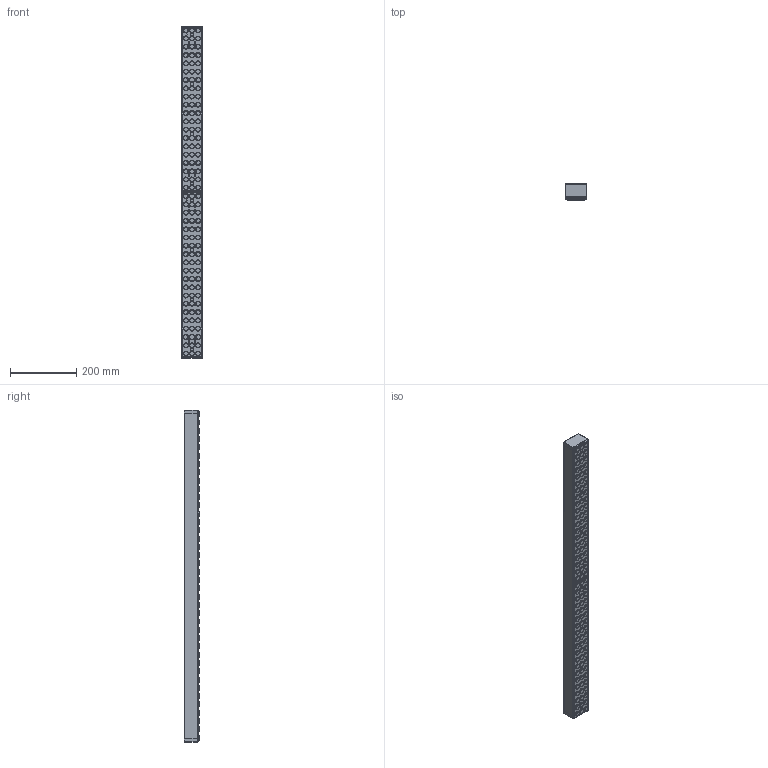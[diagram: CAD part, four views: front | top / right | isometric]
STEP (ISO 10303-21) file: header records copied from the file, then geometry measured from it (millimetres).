
FILE_DESCRIPTION(/* description */ (''),/* implementation_level */ '2;1');
FILE_NAME(/* name */ 'BINGO_LUMI_SYSTEM_GDO_BL1.stp',/* time_stamp */ '2025-10-01T13:41:19+02:00',/* author */ ('gian.noche'),/* organization */ (''),/* preprocessor_version */ 'ST-DEVELOPER v19.2',/* originating_system */ 'Autodesk Inventor 2023',/* authorisation */ '');
FILE_SCHEMA (('AUTOMOTIVE_DESIGN { 1 0 10303 214 3 1 1 }'));
Length unit declared in the file: millimetre
Products named in the file (1): IDP_27_BINGO_LUMI_SYSTEM_1000_Semplifica_1
Bounding box: 65 x 47.82 x 1001 mm (x, y, z)
Volume: 416983.8 mm3; surface area: 355665.7 mm2
Topology: 1 solids, 1 shells, 681 faces, 1515 edges, 962 vertices
Faces by surface type: plane 277, cylinder 220, torus 128, bspline 56
Full cylindrical faces by diameter (mm): 15 x120
Entity records: 23082 total; most frequent: CARTESIAN_POINT 7255, DIRECTION 3709, ORIENTED_EDGE 3034, AXIS2_PLACEMENT_3D 1588, EDGE_CURVE 1517, VERTEX_POINT 962, EDGE_LOOP 807, CIRCLE 774
